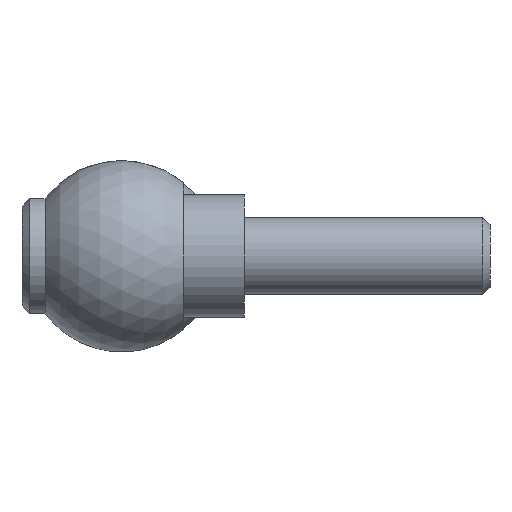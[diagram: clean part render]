
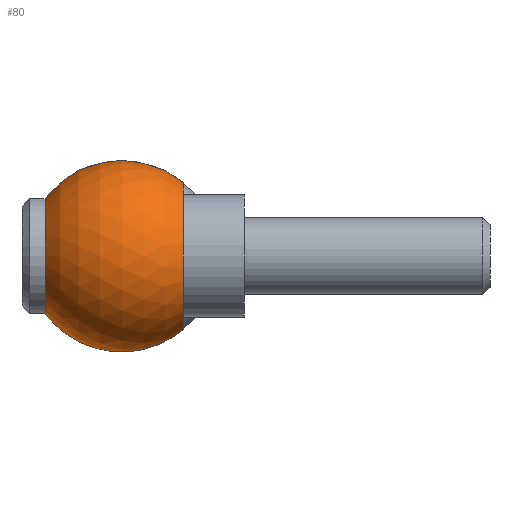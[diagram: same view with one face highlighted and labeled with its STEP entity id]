
A CAD part, left-side view. The second image highlights one B-rep face of the part: STEP entity #80.
In plain terms, the highlighted spherical face has radius 12.5 mm.
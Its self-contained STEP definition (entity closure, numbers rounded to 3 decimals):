
#80 = ADVANCED_FACE( '', ( #104, #105, #106 ), #107, .T. );
#104 = FACE_OUTER_BOUND( '', #142, .T. );
#105 = FACE_BOUND( '', #143, .T. );
#106 = FACE_OUTER_BOUND( '', #144, .T. );
#107 = SPHERICAL_SURFACE( '', #145, 12.5 );
#142 = EDGE_LOOP( '', ( #190 ) );
#143 = EDGE_LOOP( '', ( #191 ) );
#144 = EDGE_LOOP( '', ( #192 ) );
#145 = AXIS2_PLACEMENT_3D( '', #193, #194, #195 );
#190 = ORIENTED_EDGE( '', *, *, #235, .T. );
#191 = ORIENTED_EDGE( '', *, *, #236, .T. );
#192 = ORIENTED_EDGE( '', *, *, #234, .F. );
#193 = CARTESIAN_POINT( '', ( 0., 16., 0. ) );
#194 = DIRECTION( '', ( 0., -1., 0. ) );
#195 = DIRECTION( '', ( 1., 0., 0. ) );
#234 = EDGE_CURVE( '', #252, #252, #253, .T. );
#235 = EDGE_CURVE( '', #254, #254, #255, .T. );
#236 = EDGE_CURVE( '', #256, #256, #257, .T. );
#252 = VERTEX_POINT( '', #276 );
#253 = CIRCLE( '', #277, 9.605 );
#254 = VERTEX_POINT( '', #278 );
#255 = CIRCLE( '', #279, 7.5 );
#256 = VERTEX_POINT( '', #280 );
#257 = CIRCLE( '', #281, 5.5 );
#276 = CARTESIAN_POINT( '', ( 0., 8., -9.605 ) );
#277 = AXIS2_PLACEMENT_3D( '', #305, #306, #307 );
#278 = CARTESIAN_POINT( '', ( 0., 26., -7.5 ) );
#279 = AXIS2_PLACEMENT_3D( '', #308, #309, #310 );
#280 = CARTESIAN_POINT( '', ( 11.225, 16., 5.5 ) );
#281 = AXIS2_PLACEMENT_3D( '', #311, #312, #313 );
#305 = CARTESIAN_POINT( '', ( 0., 8., 0. ) );
#306 = DIRECTION( '', ( 0., -1., 0. ) );
#307 = DIRECTION( '', ( 0., 0., -1. ) );
#308 = CARTESIAN_POINT( '', ( 0., 26., 0. ) );
#309 = DIRECTION( '', ( 0., -1., 0. ) );
#310 = DIRECTION( '', ( 0., 0., -1. ) );
#311 = CARTESIAN_POINT( '', ( 11.225, 16., 0. ) );
#312 = DIRECTION( '', ( -1., 0., 0. ) );
#313 = DIRECTION( '', ( 0., 0., 1. ) );
